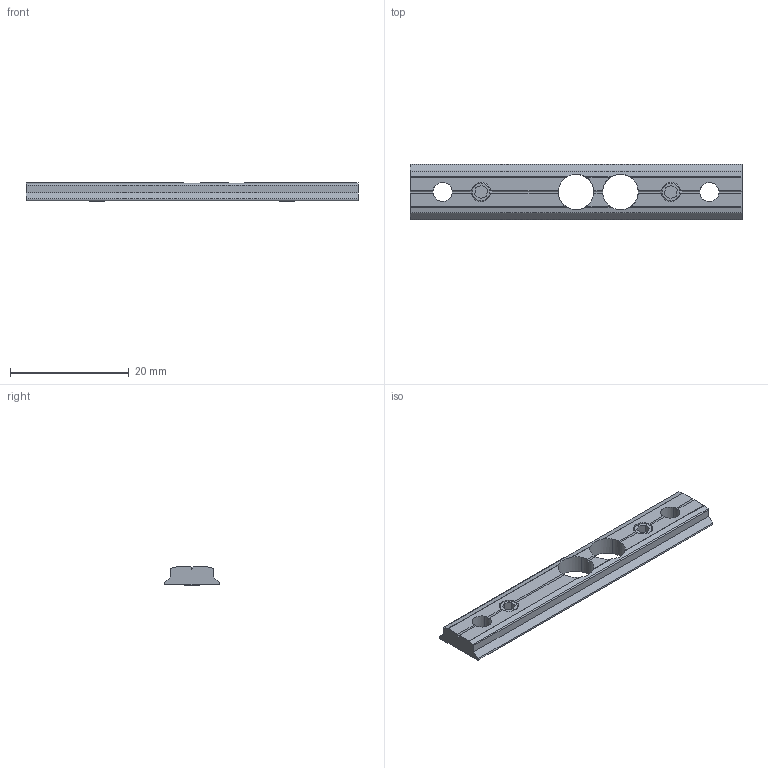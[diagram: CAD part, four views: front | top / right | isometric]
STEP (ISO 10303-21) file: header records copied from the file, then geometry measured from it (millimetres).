
FILE_DESCRIPTION(('CATIA V5 STEP Exchange'),'2;1');
FILE_NAME('D:\Desktop\其它\2-BMW-3D model for design\EGT_200_NUTENSTEIN.stp','2016-06-10T15:41:19+00:00',('none'),('none'),'CATIA Version 5 Release 19 SP 6 (IN-10)','CATIA V5 STEP AP203','none');
FILE_SCHEMA(('CONFIG_CONTROL_DESIGN'));
Length unit declared in the file: millimetre
Products named in the file (1): EGT_200_NUTENSTEIN
Bounding box: 56 x 9.33 x 3.1 mm (x, y, z)
Volume: 1078.4 mm3; surface area: 1536.7 mm2
Topology: 3 solids, 3 shells, 81 faces, 237 edges, 158 vertices
Faces by surface type: plane 47, cylinder 26, cone 8
Entity records: 2587 total; most frequent: CARTESIAN_POINT 575, ORIENTED_EDGE 474, DIRECTION 297, EDGE_CURVE 237, VERTEX_POINT 158, AXIS2_PLACEMENT_3D 125, VECTOR 125, LINE 125
